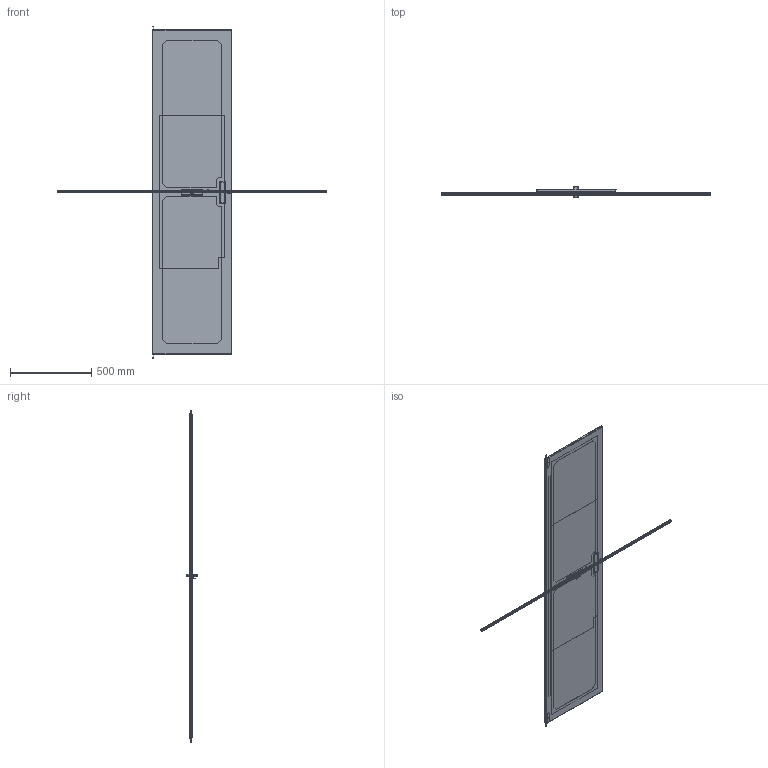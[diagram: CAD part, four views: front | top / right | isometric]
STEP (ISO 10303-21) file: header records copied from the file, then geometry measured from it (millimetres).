
FILE_DESCRIPTION( ( 'Unknown' ), '1' );
FILE_NAME( 'Q:/C2/WEB DRAWINGS/STEP/CDF1978V.stp', 'Unknown', ( 'Unknown' ), ( 'Unknown' ), 'XStep 1.0', 'Unknown', ' ' );
FILE_SCHEMA( ( 'CONFIG_CONTROL_DESIGN' ) );
Length unit declared in the file: millimetre
Products named in the file (11): Assem1; Assem2; Assem3; 1; 2; 3; 4; 5; 6; 7; 8
Bounding box: 1651 x 69.85 x 2041.8 mm (x, y, z)
Volume: 3835021.1 mm3; surface area: 6828300.8 mm2
Topology: 30 solids, 30 shells, 798 faces, 2023 edges, 1308 vertices
Faces by surface type: plane 567, cylinder 192, cone 17, bspline 16, torus 6
Full cylindrical faces by diameter (mm): 4.775 x6, 5.182 x3, 6.35 x15, 8.382 x2, 13.868 x2, 13.97 x2, 21.996 x2
Entity records: 8411 total; most frequent: CARTESIAN_POINT 1672, DIRECTION 1289, ORIENTED_EDGE 1270, EDGE_CURVE 635, LINE 475, VECTOR 475, VERTEX_POINT 418, AXIS2_PLACEMENT_3D 407
